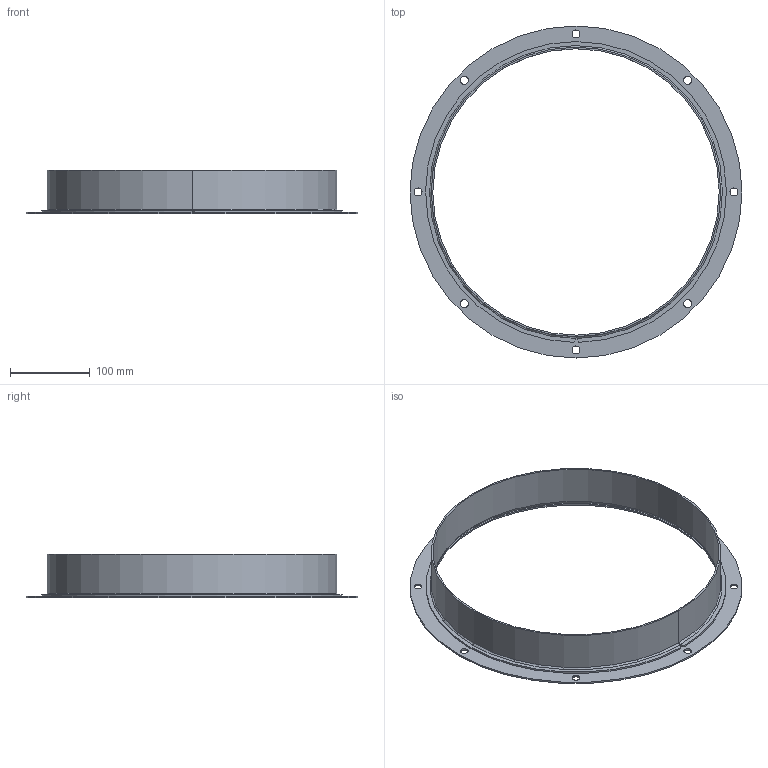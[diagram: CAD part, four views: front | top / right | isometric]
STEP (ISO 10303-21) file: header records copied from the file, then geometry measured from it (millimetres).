
FILE_DESCRIPTION(/* description */ ('Stub K-560'),/* implementation_level */ '2;1');
FILE_NAME(/* name */ 'Y:\VaultRobocze\Designs\2\0\02\900 250\2 002 900 250.stp',/* time_stamp */ '2018-03-30T10:43:29+02:00',/* author */ ('TomaszCie'),/* organization */ (''),/* preprocessor_version */ 'ST-DEVELOPER v16.13',/* originating_system */ 'Autodesk Inventor 2018',/* authorisation */ '');
FILE_SCHEMA (('AUTOMOTIVE_DESIGN { 1 0 10303 214 3 1 1 }'));
Length unit declared in the file: millimetre
Products named in the file (3): 2 002 900 250; 2 002 900 251; 2 002 900 252
Assembly tree (2 placements, depth 2):
  2 002 900 250
    2 002 900 251
    2 002 900 252
Bounding box: 415 x 415 x 55 mm (x, y, z)
Volume: 199989.5 mm3; surface area: 210196.5 mm2
Topology: 2 solids, 2 shells, 24 faces, 58 edges, 38 vertices
Faces by surface type: cylinder 13, plane 9, torus 2
Full cylindrical faces by diameter (mm): 10 x8, 358 x1, 359 x1, 362 x1, 415 x1
Entity records: 816 total; most frequent: DIRECTION 140, CARTESIAN_POINT 115, ORIENTED_EDGE 96, AXIS2_PLACEMENT_3D 63, EDGE_LOOP 52, EDGE_CURVE 48, VERTEX_POINT 38, CIRCLE 30
